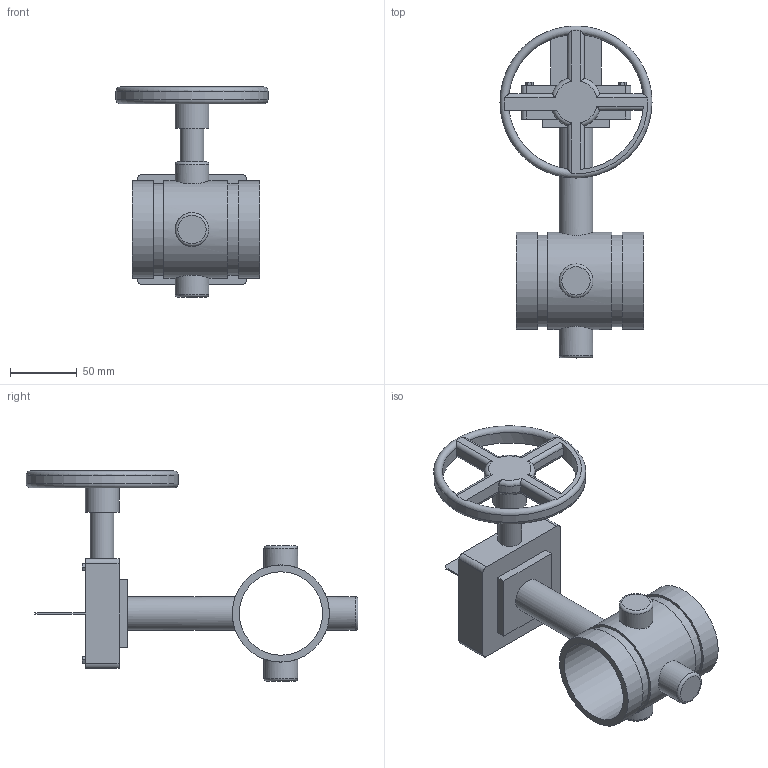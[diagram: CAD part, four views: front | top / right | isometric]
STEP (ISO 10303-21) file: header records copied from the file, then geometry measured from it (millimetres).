
FILE_DESCRIPTION(/* description */ ('VIC FIRELOCK BUTTERFLY VALVE SERIES 707-C W/ WEATHERPROOF ACTUATOR FOR 300 PSI','CAx-IF Rec.Pracs.---Representation and Presentation of Product Manufacturing Information (PMI)---4.0---2014-10-13'),/* implementation_level */ '2;1');
FILE_NAME(/* name */ 'C:\Users\Vjadhav\AppData\Roaming\Autodesk\ApplicationPlugins\Back Up\Victaulic_FP-FireLock_Valve Butterfly_Series 707C (OGS)-Closed\Victaulic_FP-FireLock_Valve Butterfly_Series 707C (OGS)-Closed_2.5 (65).stp',/* time_stamp */ '2020-07-20T15:14:46+06:00',/* author */ ('kkamble'),/* organization */ ('Victaulic'),/* preprocessor_version */ 'ST-DEVELOPER v17.2',/* originating_system */ 'Autodesk Inventor 2019',/* authorisation */ '');
FILE_SCHEMA (('AP242_MANAGED_MODEL_BASED_3D_ENGINEERING_MIM_LF { 1 0 10303 442 1 1 4 }'));
Length unit declared in the file: inch
Products named in the file (1): 707C-02.5
Bounding box: 114.3 x 249.43 x 157.99 mm (x, y, z)
Volume: 432696.6 mm3; surface area: 103041.9 mm2
Topology: 1 solids, 1 shells, 119 faces, 311 edges, 208 vertices
Faces by surface type: plane 66, cylinder 40, torus 13
Full cylindrical faces by diameter (mm): 17.78 x1, 25.4 x5, 62.713 x1, 69.088 x2, 73.025 x3, 114.3 x1
Entity records: 4402 total; most frequent: CARTESIAN_POINT 1160, DIRECTION 629, ORIENTED_EDGE 622, EDGE_CURVE 311, AXIS2_PLACEMENT_3D 225, VERTEX_POINT 208, LINE 179, VECTOR 179
